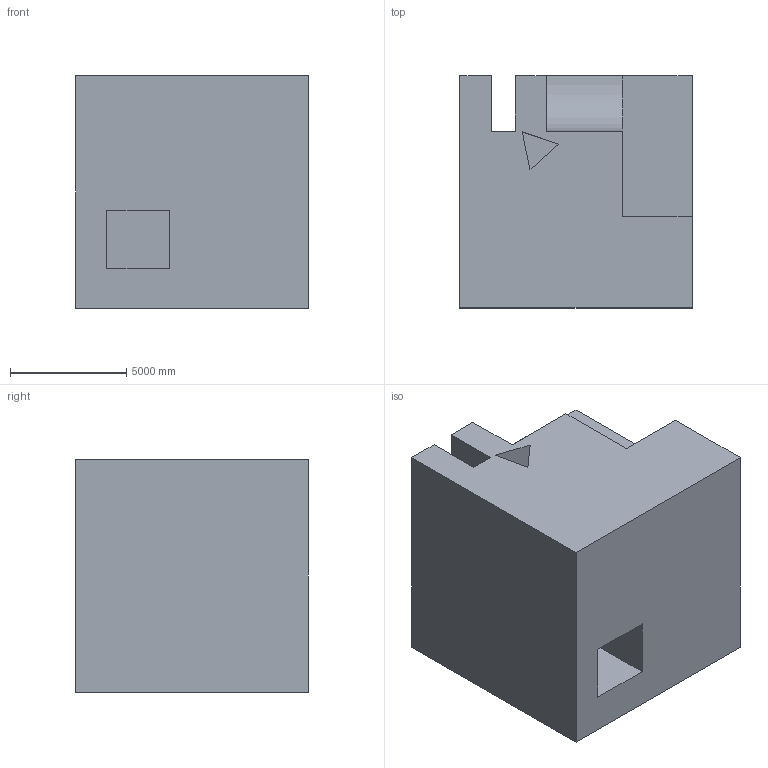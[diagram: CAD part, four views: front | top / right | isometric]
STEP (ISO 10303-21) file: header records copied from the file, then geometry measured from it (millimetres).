
FILE_DESCRIPTION (( 'STEP AP203' ), '1' );
FILE_NAME ('525.STEP', '2022-07-29T11:39:12', ( 'user' ), ( '' ), 'SwSTEP 2.0', 'SolidWorks 2021', '' );
FILE_SCHEMA (( 'CONFIG_CONTROL_DESIGN' ));
Length unit declared in the file: centimetre
Products named in the file (1): 525
Bounding box: 10000 x 10000 x 10000 mm (x, y, z)
Volume: 872629386445.2 mm3; surface area: 709398017.5 mm2
Topology: 1 solids, 1 shells, 26 faces, 66 edges, 44 vertices
Faces by surface type: plane 24, cylinder 2
Entity records: 851 total; most frequent: CARTESIAN_POINT 137, ORIENTED_EDGE 132, DIRECTION 124, EDGE_CURVE 66, VECTOR 62, LINE 62, VERTEX_POINT 44, AXIS2_PLACEMENT_3D 31
